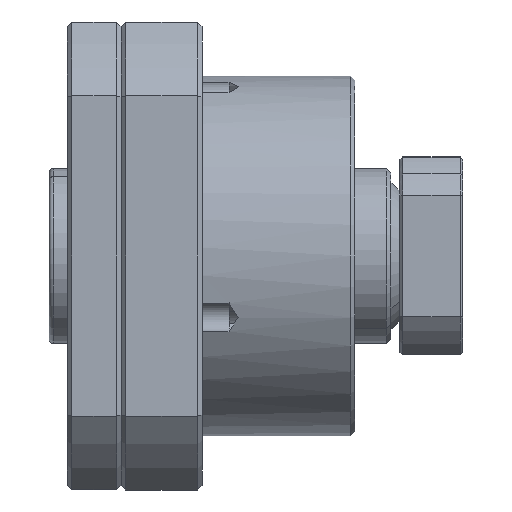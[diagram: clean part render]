
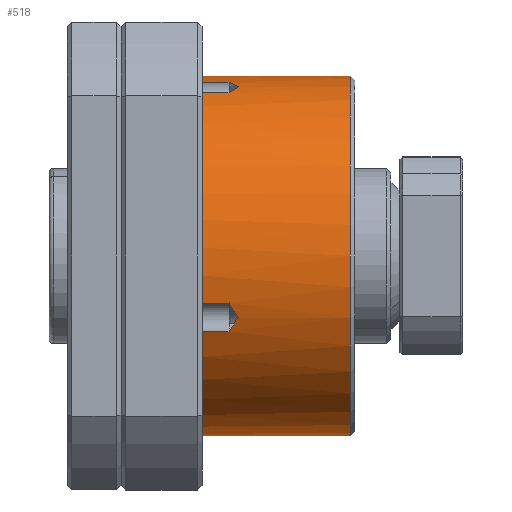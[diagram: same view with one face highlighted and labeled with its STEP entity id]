
A CAD part, front view. The second image highlights one B-rep face of the part: STEP entity #518.
In plain terms, the highlighted cylindrical face has radius 20 mm (diameter 40 mm), a partial arc.
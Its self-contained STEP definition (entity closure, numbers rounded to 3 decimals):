
#69 = DIRECTION ( 'NONE',  ( -1., 0., 0. ) ) ;
#90 = DIRECTION ( 'NONE',  ( 0., 0., 1. ) ) ;
#91 = CARTESIAN_POINT ( 'NONE',  ( 25.5, 0., -20. ) ) ;
#97 = CYLINDRICAL_SURFACE ( 'NONE', #4689, 20. ) ;
#120 = CARTESIAN_POINT ( 'NONE',  ( 13.006, -18.794, -6.84 ) ) ;
#207 = EDGE_CURVE ( 'NONE', #5673, #4340, #1762, .T. ) ;
#255 = DIRECTION ( 'NONE',  ( 0., 0., 1. ) ) ;
#257 = DIRECTION ( 'NONE',  ( -1., 0., 0. ) ) ;
#382 = CIRCLE ( 'NONE', #432, 20. ) ;
#432 = AXIS2_PLACEMENT_3D ( 'NONE', #969, #4932, #1535 ) ;
#434 = ORIENTED_EDGE ( 'NONE', *, *, #6654, .T. ) ;
#489 = CARTESIAN_POINT ( 'NONE',  ( 13.006, -6.84, 18.794 ) ) ;
#490 = VERTEX_POINT ( 'NONE', #3898 ) ;
#518 = ADVANCED_FACE ( 'NONE', ( #3138 ), #97, .T. ) ;
#527 = CARTESIAN_POINT ( 'NONE',  ( 13.006, -6.84, 18.794 ) ) ;
#540 = DIRECTION ( 'NONE',  ( -1., 0., 0. ) ) ;
#658 = ORIENTED_EDGE ( 'NONE', *, *, #6889, .F. ) ;
#682 = CARTESIAN_POINT ( 'NONE',  ( 9., 0., -20. ) ) ;
#687 = DIRECTION ( 'NONE',  ( -1., 0., 0. ) ) ;
#871 = CIRCLE ( 'NONE', #2850, 20. ) ;
#969 = CARTESIAN_POINT ( 'NONE',  ( 9., 0., 0. ) ) ;
#975 = EDGE_CURVE ( 'NONE', #490, #4960, #6157, .T. ) ;
#983 = DIRECTION ( 'NONE',  ( 0., 0., 1. ) ) ;
#998 = CARTESIAN_POINT ( 'NONE',  ( -94.469, 0., 0. ) ) ;
#1041 = EDGE_CURVE ( 'NONE', #4960, #3809, #6880, .T. ) ;
#1168 = LINE ( 'NONE', #2821, #7241 ) ;
#1350 = DIRECTION ( 'NONE',  ( -1., 0., 0. ) ) ;
#1359 = CARTESIAN_POINT ( 'NONE',  ( 12., -5.244, 19.3 ) ) ;
#1417 = EDGE_CURVE ( 'NONE', #2979, #4252, #1168, .T. ) ;
#1453 = B_SPLINE_CURVE_WITH_KNOTS ( 'NONE', 3,
 ( #6384, #2409, #3544, #120 ),
 .UNSPECIFIED., .F., .F.,
 ( 4, 4 ),
 ( 0.002, 0.004 ),
 .UNSPECIFIED. ) ;
#1532 = ORIENTED_EDGE ( 'NONE', *, *, #975, .T. ) ;
#1535 = DIRECTION ( 'NONE',  ( 0., 0., 1. ) ) ;
#1579 = CARTESIAN_POINT ( 'NONE',  ( 9., -8.389, 18.156 ) ) ;
#1627 = CARTESIAN_POINT ( 'NONE',  ( 9., -5.244, 19.3 ) ) ;
#1642 = CARTESIAN_POINT ( 'NONE',  ( 12.335, -7.882, 18.39 ) ) ;
#1692 = VERTEX_POINT ( 'NONE', #2801 ) ;
#1762 = B_SPLINE_CURVE_WITH_KNOTS ( 'NONE', 3,
 ( #1359, #4755, #1914, #5340 ),
 .UNSPECIFIED., .F., .F.,
 ( 4, 4 ),
 ( 0.002, 0.004 ),
 .UNSPECIFIED. ) ;
#1914 = CARTESIAN_POINT ( 'NONE',  ( 12.671, -6.316, 18.985 ) ) ;
#1946 = EDGE_CURVE ( 'NONE', #4340, #2979, #7096, .T. ) ;
#2219 = CARTESIAN_POINT ( 'NONE',  ( 12., -18.156, -8.389 ) ) ;
#2268 = ORIENTED_EDGE ( 'NONE', *, *, #4530, .T. ) ;
#2294 = CARTESIAN_POINT ( 'NONE',  ( 12.335, -18.39, -7.882 ) ) ;
#2349 = DIRECTION ( 'NONE',  ( 1., 0., 0. ) ) ;
#2409 = CARTESIAN_POINT ( 'NONE',  ( 12.335, -19.154, -5.782 ) ) ;
#2476 = LINE ( 'NONE', #3670, #5130 ) ;
#2537 = ORIENTED_EDGE ( 'NONE', *, *, #3652, .F. ) ;
#2571 = LINE ( 'NONE', #5757, #4250 ) ;
#2620 = VERTEX_POINT ( 'NONE', #1627 ) ;
#2772 = EDGE_CURVE ( 'NONE', #2620, #5673, #2571, .T. ) ;
#2801 = CARTESIAN_POINT ( 'NONE',  ( 9., 0., 20. ) ) ;
#2802 = EDGE_CURVE ( 'NONE', #2620, #1692, #871, .T. ) ;
#2821 = CARTESIAN_POINT ( 'NONE',  ( 6., -8.389, 18.156 ) ) ;
#2850 = AXIS2_PLACEMENT_3D ( 'NONE', #6928, #3508, #90 ) ;
#2868 = CARTESIAN_POINT ( 'NONE',  ( 13.006, -18.794, -6.84 ) ) ;
#2979 = VERTEX_POINT ( 'NONE', #4329 ) ;
#2992 = VERTEX_POINT ( 'NONE', #6699 ) ;
#3045 = EDGE_CURVE ( 'NONE', #5325, #3466, #5681, .T. ) ;
#3138 = FACE_OUTER_BOUND ( 'NONE', #6989, .T. ) ;
#3331 = CARTESIAN_POINT ( 'NONE',  ( 12.671, -18.603, -7.365 ) ) ;
#3466 = VERTEX_POINT ( 'NONE', #6343 ) ;
#3508 = DIRECTION ( 'NONE',  ( -1., 0., 0. ) ) ;
#3544 = CARTESIAN_POINT ( 'NONE',  ( 12.671, -18.985, -6.316 ) ) ;
#3629 = AXIS2_PLACEMENT_3D ( 'NONE', #7100, #3667, #255 ) ;
#3652 = EDGE_CURVE ( 'NONE', #5004, #5953, #2476, .T. ) ;
#3667 = DIRECTION ( 'NONE',  ( -1., 0., 0. ) ) ;
#3670 = CARTESIAN_POINT ( 'NONE',  ( -94.469, 0., -20. ) ) ;
#3690 = CIRCLE ( 'NONE', #4320, 20. ) ;
#3768 = CARTESIAN_POINT ( 'NONE',  ( 12., -5.244, 19.3 ) ) ;
#3809 = VERTEX_POINT ( 'NONE', #6276 ) ;
#3898 = CARTESIAN_POINT ( 'NONE',  ( 13.006, -18.794, -6.84 ) ) ;
#3914 = CARTESIAN_POINT ( 'NONE',  ( 12.671, -7.365, 18.603 ) ) ;
#3932 = EDGE_CURVE ( 'NONE', #3466, #490, #1453, .T. ) ;
#3996 = VECTOR ( 'NONE', #7323, 1000. ) ;
#4096 = CARTESIAN_POINT ( 'NONE',  ( 25.5, 0., 0. ) ) ;
#4250 = VECTOR ( 'NONE', #2349, 1000. ) ;
#4252 = VERTEX_POINT ( 'NONE', #1579 ) ;
#4320 = AXIS2_PLACEMENT_3D ( 'NONE', #4096, #687, #4652 ) ;
#4328 = ORIENTED_EDGE ( 'NONE', *, *, #3045, .T. ) ;
#4329 = CARTESIAN_POINT ( 'NONE',  ( 12., -8.389, 18.156 ) ) ;
#4340 = VERTEX_POINT ( 'NONE', #527 ) ;
#4411 = ORIENTED_EDGE ( 'NONE', *, *, #1946, .T. ) ;
#4530 = EDGE_CURVE ( 'NONE', #5004, #2992, #3690, .T. ) ;
#4606 = ORIENTED_EDGE ( 'NONE', *, *, #1041, .T. ) ;
#4652 = DIRECTION ( 'NONE',  ( 0., 0., 1. ) ) ;
#4689 = AXIS2_PLACEMENT_3D ( 'NONE', #998, #1350, #983 ) ;
#4755 = CARTESIAN_POINT ( 'NONE',  ( 12.335, -5.782, 19.154 ) ) ;
#4932 = DIRECTION ( 'NONE',  ( -1., 0., 0. ) ) ;
#4960 = VERTEX_POINT ( 'NONE', #6899 ) ;
#5004 = VERTEX_POINT ( 'NONE', #91 ) ;
#5130 = VECTOR ( 'NONE', #257, 1000. ) ;
#5325 = VERTEX_POINT ( 'NONE', #5371 ) ;
#5340 = CARTESIAN_POINT ( 'NONE',  ( 13.006, -6.84, 18.794 ) ) ;
#5371 = CARTESIAN_POINT ( 'NONE',  ( 9., -19.3, -5.244 ) ) ;
#5471 = CIRCLE ( 'NONE', #3629, 20. ) ;
#5621 = CARTESIAN_POINT ( 'NONE',  ( 12., -8.389, 18.156 ) ) ;
#5672 = CARTESIAN_POINT ( 'NONE',  ( 6., -18.156, -8.389 ) ) ;
#5673 = VERTEX_POINT ( 'NONE', #3768 ) ;
#5681 = LINE ( 'NONE', #6753, #3996 ) ;
#5720 = DIRECTION ( 'NONE',  ( -1., 0., 0. ) ) ;
#5757 = CARTESIAN_POINT ( 'NONE',  ( 6., -5.244, 19.3 ) ) ;
#5946 = ORIENTED_EDGE ( 'NONE', *, *, #6767, .F. ) ;
#5953 = VERTEX_POINT ( 'NONE', #682 ) ;
#6157 = B_SPLINE_CURVE_WITH_KNOTS ( 'NONE', 3,
 ( #2868, #3331, #2294, #2219 ),
 .UNSPECIFIED., .F., .F.,
 ( 4, 4 ),
 ( 0., 0.002 ),
 .UNSPECIFIED. ) ;
#6178 = LINE ( 'NONE', #6322, #7351 ) ;
#6276 = CARTESIAN_POINT ( 'NONE',  ( 9., -18.156, -8.389 ) ) ;
#6322 = CARTESIAN_POINT ( 'NONE',  ( -94.469, 0., 20. ) ) ;
#6343 = CARTESIAN_POINT ( 'NONE',  ( 12., -19.3, -5.244 ) ) ;
#6383 = ORIENTED_EDGE ( 'NONE', *, *, #3932, .T. ) ;
#6384 = CARTESIAN_POINT ( 'NONE',  ( 12., -19.3, -5.244 ) ) ;
#6448 = ORIENTED_EDGE ( 'NONE', *, *, #1417, .T. ) ;
#6486 = ORIENTED_EDGE ( 'NONE', *, *, #207, .T. ) ;
#6510 = VECTOR ( 'NONE', #5720, 1000. ) ;
#6538 = ORIENTED_EDGE ( 'NONE', *, *, #2772, .T. ) ;
#6654 = EDGE_CURVE ( 'NONE', #2992, #1692, #6178, .T. ) ;
#6699 = CARTESIAN_POINT ( 'NONE',  ( 25.5, 0., 20. ) ) ;
#6753 = CARTESIAN_POINT ( 'NONE',  ( 6., -19.3, -5.244 ) ) ;
#6767 = EDGE_CURVE ( 'NONE', #5325, #4252, #5471, .T. ) ;
#6880 = LINE ( 'NONE', #5672, #6510 ) ;
#6889 = EDGE_CURVE ( 'NONE', #5953, #3809, #382, .T. ) ;
#6899 = CARTESIAN_POINT ( 'NONE',  ( 12., -18.156, -8.389 ) ) ;
#6928 = CARTESIAN_POINT ( 'NONE',  ( 9., 0., 0. ) ) ;
#6989 = EDGE_LOOP ( 'NONE', ( #2537, #2268, #434, #7188, #6538, #6486, #4411, #6448, #5946, #4328, #6383, #1532, #4606, #658 ) ) ;
#7096 = B_SPLINE_CURVE_WITH_KNOTS ( 'NONE', 3,
 ( #489, #3914, #1642, #5621 ),
 .UNSPECIFIED., .F., .F.,
 ( 4, 4 ),
 ( 0., 0.002 ),
 .UNSPECIFIED. ) ;
#7100 = CARTESIAN_POINT ( 'NONE',  ( 9., 0., 0. ) ) ;
#7188 = ORIENTED_EDGE ( 'NONE', *, *, #2802, .F. ) ;
#7241 = VECTOR ( 'NONE', #540, 1000. ) ;
#7323 = DIRECTION ( 'NONE',  ( 1., 0., 0. ) ) ;
#7351 = VECTOR ( 'NONE', #69, 1000. ) ;
